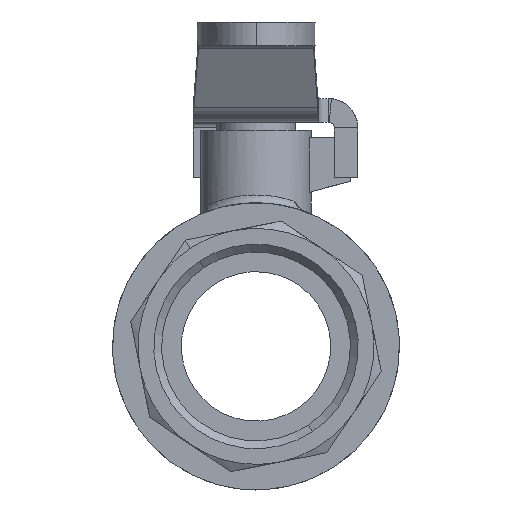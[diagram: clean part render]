
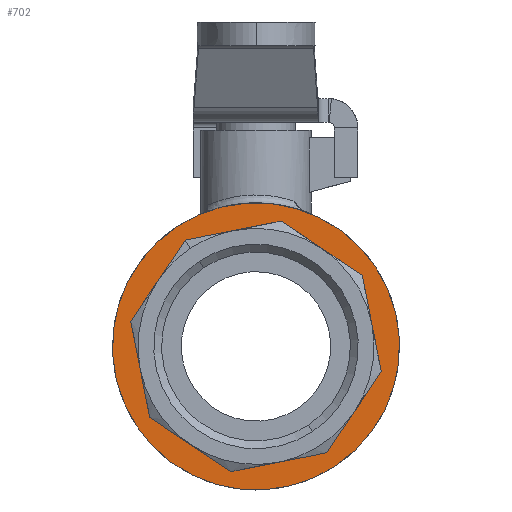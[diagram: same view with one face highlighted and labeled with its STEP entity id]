
A CAD part, left-side view. The second image highlights one B-rep face of the part: STEP entity #702.
In plain terms, the highlighted planar face has unit normal (-1, 0, 0).
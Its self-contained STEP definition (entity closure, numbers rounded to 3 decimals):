
#202=PLANE('',#5602);
#321=FACE_BOUND('',#1423,.T.);
#322=FACE_BOUND('',#1424,.T.);
#702=ADVANCED_FACE('',(#321,#322),#202,.F.);
#1423=EDGE_LOOP('',(#2433,#2434));
#1424=EDGE_LOOP('',(#2435,#2436,#2437,#2438,#2439,#2440,#2441,#2442));
#1776=LINE('',#7591,#2065);
#1777=LINE('',#7594,#2066);
#1778=LINE('',#7596,#2067);
#1779=LINE('',#7598,#2068);
#1780=LINE('',#7600,#2069);
#1781=LINE('',#7602,#2070);
#1782=LINE('',#7604,#2071);
#1783=LINE('',#7606,#2072);
#2065=VECTOR('',#6202,1.);
#2066=VECTOR('',#6203,1.);
#2067=VECTOR('',#6204,1.);
#2068=VECTOR('',#6205,1.);
#2069=VECTOR('',#6206,1.);
#2070=VECTOR('',#6207,1.);
#2071=VECTOR('',#6208,1.);
#2072=VECTOR('',#6209,1.);
#2433=ORIENTED_EDGE('',*,*,#4488,.F.);
#2434=ORIENTED_EDGE('',*,*,#4539,.F.);
#2435=ORIENTED_EDGE('',*,*,#4540,.F.);
#2436=ORIENTED_EDGE('',*,*,#4541,.F.);
#2437=ORIENTED_EDGE('',*,*,#4542,.F.);
#2438=ORIENTED_EDGE('',*,*,#4543,.F.);
#2439=ORIENTED_EDGE('',*,*,#4544,.F.);
#2440=ORIENTED_EDGE('',*,*,#4545,.F.);
#2441=ORIENTED_EDGE('',*,*,#4546,.F.);
#2442=ORIENTED_EDGE('',*,*,#4547,.F.);
#3973=VERTEX_POINT('',#7438);
#3974=VERTEX_POINT('',#7439);
#4006=VERTEX_POINT('',#7592);
#4007=VERTEX_POINT('',#7593);
#4008=VERTEX_POINT('',#7595);
#4009=VERTEX_POINT('',#7597);
#4010=VERTEX_POINT('',#7599);
#4011=VERTEX_POINT('',#7601);
#4012=VERTEX_POINT('',#7603);
#4013=VERTEX_POINT('',#7605);
#4488=EDGE_CURVE('',#3973,#3974,#5293,.T.);
#4539=EDGE_CURVE('',#3974,#3973,#5317,.T.);
#4540=EDGE_CURVE('',#4006,#4007,#1776,.T.);
#4541=EDGE_CURVE('',#4008,#4006,#1777,.T.);
#4542=EDGE_CURVE('',#4009,#4008,#1778,.T.);
#4543=EDGE_CURVE('',#4010,#4009,#1779,.T.);
#4544=EDGE_CURVE('',#4011,#4010,#1780,.T.);
#4545=EDGE_CURVE('',#4012,#4011,#1781,.T.);
#4546=EDGE_CURVE('',#4013,#4012,#1782,.T.);
#4547=EDGE_CURVE('',#4007,#4013,#1783,.T.);
#5293=CIRCLE('',#5556,18.25);
#5317=CIRCLE('',#5601,18.25);
#5556=AXIS2_PLACEMENT_3D('',#7437,#6099,#6100);
#5601=AXIS2_PLACEMENT_3D('',#7590,#6200,#6201);
#5602=AXIS2_PLACEMENT_3D('',#7607,#6210,#6211);
#6099=DIRECTION('',(1.,0.,0.));
#6100=DIRECTION('',(0.,0.554,0.833));
#6200=DIRECTION('',(1.,0.,0.));
#6201=DIRECTION('',(0.,0.554,0.833));
#6202=DIRECTION('',(0.,-0.193,-0.981));
#6203=DIRECTION('',(0.,0.557,-0.83));
#6204=DIRECTION('',(0.,0.981,-0.193));
#6205=DIRECTION('',(0.,0.83,0.557));
#6206=DIRECTION('',(0.,0.193,0.981));
#6207=DIRECTION('',(0.,-0.557,0.83));
#6208=DIRECTION('',(0.,-0.981,0.193));
#6209=DIRECTION('',(0.,-0.83,-0.557));
#6210=DIRECTION('',(1.,0.,0.));
#6211=DIRECTION('',(0.,0.554,0.833));
#7437=CARTESIAN_POINT('',(-21.541,0.,8.302));
#7438=CARTESIAN_POINT('',(-21.541,10.11,23.496));
#7439=CARTESIAN_POINT('',(-21.541,-10.11,-6.891));
#7590=CARTESIAN_POINT('',(-21.541,0.,8.302));
#7591=CARTESIAN_POINT('',(-21.541,15.918,11.501));
#7592=CARTESIAN_POINT('',(-21.541,15.918,11.501));
#7593=CARTESIAN_POINT('',(-21.541,13.517,-0.692));
#7594=CARTESIAN_POINT('',(-21.541,8.994,21.819));
#7595=CARTESIAN_POINT('',(-21.541,8.994,21.819));
#7596=CARTESIAN_POINT('',(-21.541,-3.198,24.22));
#7597=CARTESIAN_POINT('',(-21.541,-3.198,24.22));
#7598=CARTESIAN_POINT('',(-21.541,-13.517,17.297));
#7599=CARTESIAN_POINT('',(-21.541,-13.517,17.297));
#7600=CARTESIAN_POINT('',(-21.541,-15.918,5.104));
#7601=CARTESIAN_POINT('',(-21.541,-15.918,5.104));
#7602=CARTESIAN_POINT('',(-21.541,-8.994,-5.215));
#7603=CARTESIAN_POINT('',(-21.541,-8.994,-5.215));
#7604=CARTESIAN_POINT('',(-21.541,3.198,-7.615));
#7605=CARTESIAN_POINT('',(-21.541,3.198,-7.615));
#7606=CARTESIAN_POINT('',(-21.541,13.517,-0.692));
#7607=CARTESIAN_POINT('',(-21.541,-26.897,26.2));
